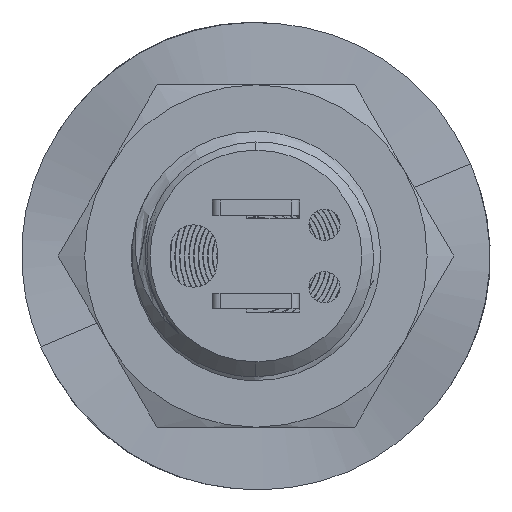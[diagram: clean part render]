
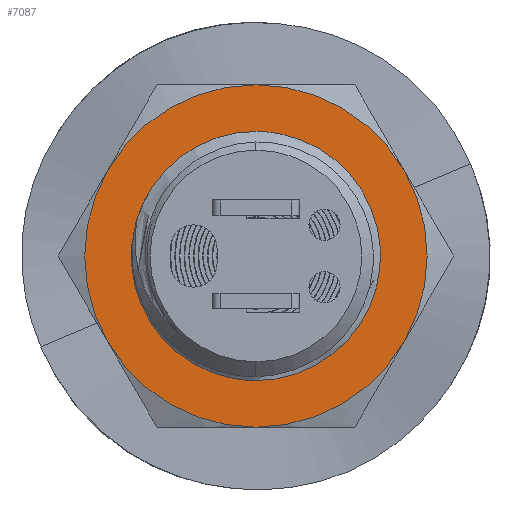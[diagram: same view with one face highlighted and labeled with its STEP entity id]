
A CAD part, left-side view. The second image highlights one B-rep face of the part: STEP entity #7087.
In plain terms, the highlighted planar face has unit normal (-1, 0, 0).
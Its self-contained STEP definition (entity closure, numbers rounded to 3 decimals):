
#69 = DIRECTION ( 'NONE',  ( 1., 0., 0. ) ) ;
#331 = ORIENTED_EDGE ( 'NONE', *, *, #3257, .T. ) ;
#913 = CARTESIAN_POINT ( 'NONE',  ( -47.79, 34.444, 0.814 ) ) ;
#999 = CARTESIAN_POINT ( 'NONE',  ( -47.79, 34.444, 0.814 ) ) ;
#1290 = EDGE_CURVE ( 'NONE', #11369, #9484, #1410, .T. ) ;
#1410 = CIRCLE ( 'NONE', #8906, 3.7 ) ;
#1804 = DIRECTION ( 'NONE',  ( 0., 0., -1. ) ) ;
#1893 = DIRECTION ( 'NONE',  ( 0., 0., -1. ) ) ;
#2354 = ORIENTED_EDGE ( 'NONE', *, *, #4906, .T. ) ;
#2754 = FACE_BOUND ( 'NONE', #6807, .T. ) ;
#2783 = CARTESIAN_POINT ( 'NONE',  ( -47.79, 34.444, 6.312 ) ) ;
#3081 = AXIS2_PLACEMENT_3D ( 'NONE', #5404, #69, #6288 ) ;
#3207 = DIRECTION ( 'NONE',  ( 0., 0., -1. ) ) ;
#3257 = EDGE_CURVE ( 'NONE', #9896, #11399, #3832, .T. ) ;
#3412 = DIRECTION ( 'NONE',  ( -1., 0., 0. ) ) ;
#3832 = CIRCLE ( 'NONE', #10670, 5.498 ) ;
#4774 = EDGE_CURVE ( 'NONE', #11399, #9896, #10601, .T. ) ;
#4906 = EDGE_CURVE ( 'NONE', #9484, #11369, #9478, .T. ) ;
#5122 = FACE_OUTER_BOUND ( 'NONE', #6190, .T. ) ;
#5404 = CARTESIAN_POINT ( 'NONE',  ( -47.79, 34.444, 0.814 ) ) ;
#6190 = EDGE_LOOP ( 'NONE', ( #331, #11236 ) ) ;
#6288 = DIRECTION ( 'NONE',  ( 0., 0., -1. ) ) ;
#6329 = CARTESIAN_POINT ( 'NONE',  ( -47.79, 34.444, -2.886 ) ) ;
#6740 = CARTESIAN_POINT ( 'NONE',  ( -47.79, 34.444, 0.814 ) ) ;
#6807 = EDGE_LOOP ( 'NONE', ( #7540, #2354 ) ) ;
#7087 = ADVANCED_FACE ( 'NONE', ( #2754, #5122 ), #11134, .F. ) ;
#7123 = DIRECTION ( 'NONE',  ( 1., 0., 0. ) ) ;
#7205 = DIRECTION ( 'NONE',  ( -1., 0., 0. ) ) ;
#7540 = ORIENTED_EDGE ( 'NONE', *, *, #1290, .T. ) ;
#8520 = DIRECTION ( 'NONE',  ( 1., 0., 0. ) ) ;
#8715 = CARTESIAN_POINT ( 'NONE',  ( -47.79, 34.444, 0.814 ) ) ;
#8906 = AXIS2_PLACEMENT_3D ( 'NONE', #913, #7123, #1804 ) ;
#9048 = AXIS2_PLACEMENT_3D ( 'NONE', #6740, #8520, #3207 ) ;
#9167 = CARTESIAN_POINT ( 'NONE',  ( -47.79, 34.444, -4.684 ) ) ;
#9253 = AXIS2_PLACEMENT_3D ( 'NONE', #8715, #3412, #9608 ) ;
#9478 = CIRCLE ( 'NONE', #3081, 3.7 ) ;
#9484 = VERTEX_POINT ( 'NONE', #9948 ) ;
#9608 = DIRECTION ( 'NONE',  ( 0., 0., -1. ) ) ;
#9896 = VERTEX_POINT ( 'NONE', #9167 ) ;
#9948 = CARTESIAN_POINT ( 'NONE',  ( -47.79, 34.444, 4.514 ) ) ;
#10601 = CIRCLE ( 'NONE', #9253, 5.498 ) ;
#10670 = AXIS2_PLACEMENT_3D ( 'NONE', #999, #7205, #1893 ) ;
#11134 = PLANE ( 'NONE',  #9048 ) ;
#11236 = ORIENTED_EDGE ( 'NONE', *, *, #4774, .T. ) ;
#11369 = VERTEX_POINT ( 'NONE', #6329 ) ;
#11399 = VERTEX_POINT ( 'NONE', #2783 ) ;
